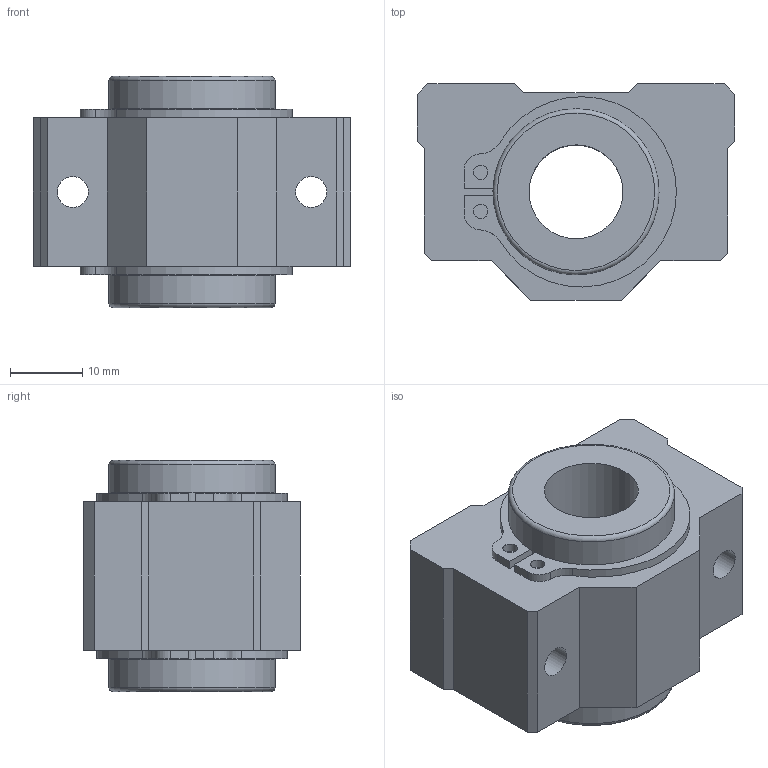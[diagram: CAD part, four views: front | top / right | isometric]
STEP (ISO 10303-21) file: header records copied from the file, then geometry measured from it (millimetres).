
FILE_DESCRIPTION(('STEP AP203'),'1');
FILE_NAME('//192.168.1.1/share/s-4 技術開発/s-4-4_CAD/s-4-4-3_見直し済み/008 修正済み/LC-C/LC-C_TOP/LC-13VCUU.step','2022-05-19T01:27:44',(' '),(' '),'Spatial InterOp 3D',' ',' ');
FILE_SCHEMA(('CONFIG_CONTROL_DESIGN'));
Length unit declared in the file: millimetre
Products named in the file (4): 1; 2; 3; 4
Bounding box: 44 x 30 x 32 mm (x, y, z)
Volume: 23172.6 mm3; surface area: 11798.7 mm2
Topology: 4 solids, 4 shells, 69 faces, 172 edges, 115 vertices
Faces by surface type: plane 40, cylinder 27, torus 2
Full cylindrical faces by diameter (mm): 2 x4, 4.3 x4, 13 x1, 22 x2, 23 x4
Entity records: 2146 total; most frequent: DIRECTION 350, CARTESIAN_POINT 333, ORIENTED_EDGE 300, EDGE_CURVE 150, AXIS2_PLACEMENT_3D 127, VERTEX_POINT 110, EDGE_LOOP 106, LINE 96
